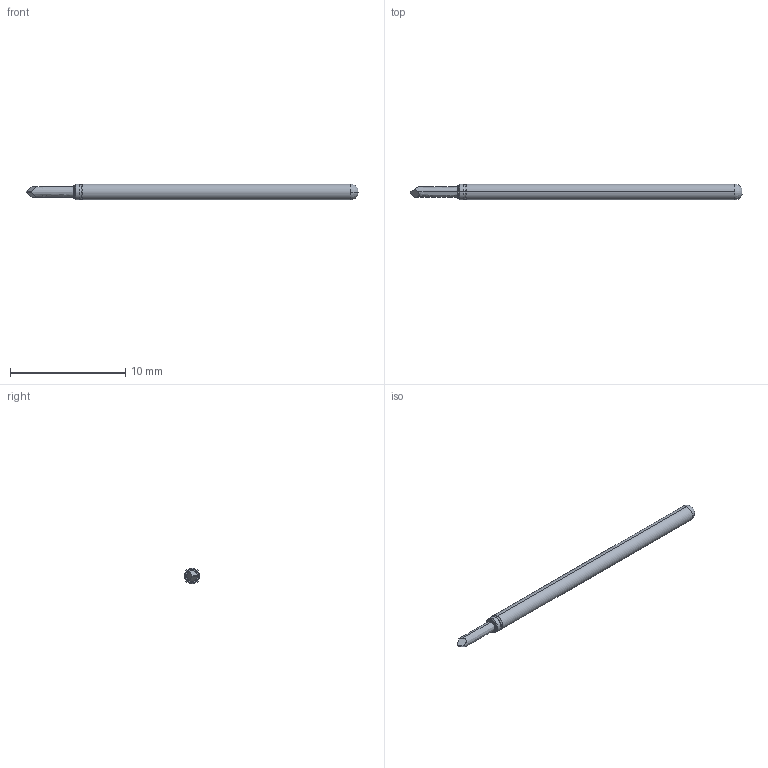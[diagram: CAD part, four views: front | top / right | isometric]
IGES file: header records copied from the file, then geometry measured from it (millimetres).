
Start section: SolidWorks IGES file using analytic representation for surfaces
Global section: file name: Z:\probe solid model mockups\Solidworks models\POGO-25 IGS files\POGO-25T30 RECD.IGS; native system: SolidWorks 2006 by SolidWorks Corporation; preprocessor: SolidWorks 2006 by SolidWorks Corporation; author: tsakatani; date: 071214.093415; units: inch
Bounding box: 28.78 x 1.37 x 1.37 mm (x, y, z)
Surface area: 118.5 mm2 (no closed solid volume)
Topology: 0 solids, 0 shells, 21 faces, 160 edges, 160 vertices
Faces by surface type: revolution 12, bspline 9
